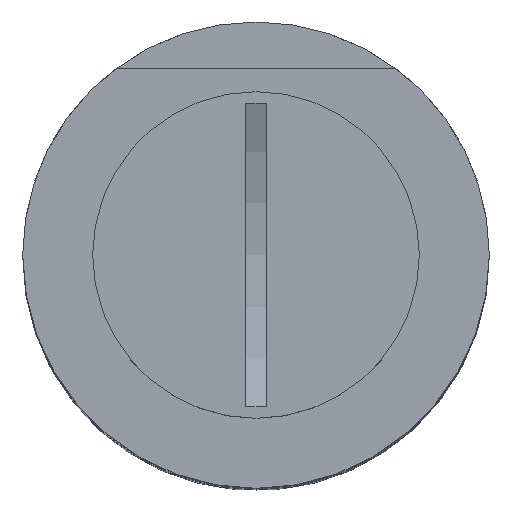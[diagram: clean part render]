
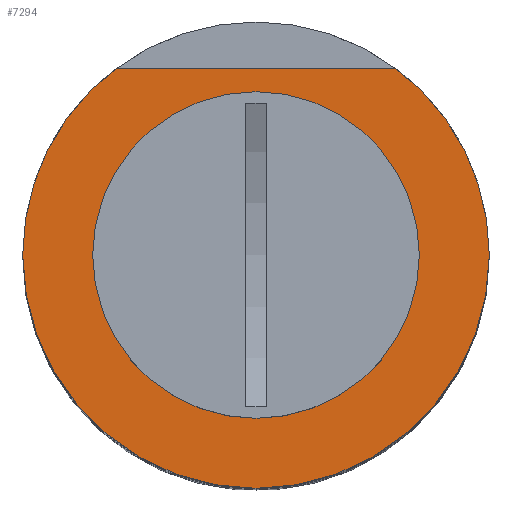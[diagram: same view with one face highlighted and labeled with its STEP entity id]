
A CAD part, top view. The second image highlights one B-rep face of the part: STEP entity #7294.
In plain terms, the highlighted planar face has unit normal (0, 0, 1).
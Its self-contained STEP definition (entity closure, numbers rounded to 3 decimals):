
#316 = ORIENTED_EDGE ( 'NONE', *, *, #4922, .F. ) ;
#317 = CARTESIAN_POINT ( 'NONE',  ( 0., 0., 0. ) ) ;
#389 = CARTESIAN_POINT ( 'NONE',  ( 20., 0., 0. ) ) ;
#494 = DIRECTION ( 'NONE',  ( 0., 0., 1. ) ) ;
#1145 = VERTEX_POINT ( 'NONE', #4518 ) ;
#1225 = VERTEX_POINT ( 'NONE', #2186 ) ;
#1281 = CARTESIAN_POINT ( 'NONE',  ( 12.25, 0., 0. ) ) ;
#1479 = DIRECTION ( 'NONE',  ( 1., 0., 0. ) ) ;
#1653 = AXIS2_PLACEMENT_3D ( 'NONE', #7015, #3563, #3510 ) ;
#2097 = CARTESIAN_POINT ( 'NONE',  ( 0., 0., 0. ) ) ;
#2186 = CARTESIAN_POINT ( 'NONE',  ( -12.25, 0., 0. ) ) ;
#2205 = FACE_OUTER_BOUND ( 'NONE', #3460, .T. ) ;
#2321 = CIRCLE ( 'NONE', #6844, 12.25 ) ;
#2330 = CIRCLE ( 'NONE', #7031, 20. ) ;
#2338 = DIRECTION ( 'NONE',  ( 1., 0., 0. ) ) ;
#2452 = ORIENTED_EDGE ( 'NONE', *, *, #10071, .F. ) ;
#2910 = ORIENTED_EDGE ( 'NONE', *, *, #7964, .F. ) ;
#3095 = EDGE_CURVE ( 'NONE', #7414, #1145, #6753, .T. ) ;
#3108 = VERTEX_POINT ( 'NONE', #3982 ) ;
#3115 = DIRECTION ( 'NONE',  ( 1., 0., 0. ) ) ;
#3210 = CIRCLE ( 'NONE', #6825, 20. ) ;
#3460 = EDGE_LOOP ( 'NONE', ( #11089, #316, #3848, #9169 ) ) ;
#3510 = DIRECTION ( 'NONE',  ( -1., 0., 0. ) ) ;
#3563 = DIRECTION ( 'NONE',  ( 0., 0., -1. ) ) ;
#3675 = DIRECTION ( 'NONE',  ( -1., 0., 0. ) ) ;
#3848 = ORIENTED_EDGE ( 'NONE', *, *, #5770, .F. ) ;
#3880 = DIRECTION ( 'NONE',  ( 0., 0., 1. ) ) ;
#3966 = DIRECTION ( 'NONE',  ( 0., 0., 1. ) ) ;
#3982 = CARTESIAN_POINT ( 'NONE',  ( -20., 0., 0. ) ) ;
#4518 = CARTESIAN_POINT ( 'NONE',  ( 12., 16., 0. ) ) ;
#4668 = DIRECTION ( 'NONE',  ( -1., 0., 0. ) ) ;
#4839 = CARTESIAN_POINT ( 'NONE',  ( 0., 0., 0. ) ) ;
#4922 = EDGE_CURVE ( 'NONE', #3108, #7414, #3210, .T. ) ;
#5025 = VERTEX_POINT ( 'NONE', #1281 ) ;
#5398 = CIRCLE ( 'NONE', #5962, 12.25 ) ;
#5617 = CIRCLE ( 'NONE', #1653, 20. ) ;
#5770 = EDGE_CURVE ( 'NONE', #5992, #3108, #5617, .T. ) ;
#5882 = CARTESIAN_POINT ( 'NONE',  ( -12., 16., 0. ) ) ;
#5962 = AXIS2_PLACEMENT_3D ( 'NONE', #8191, #3880, #9922 ) ;
#5992 = VERTEX_POINT ( 'NONE', #389 ) ;
#6613 = FACE_BOUND ( 'NONE', #9296, .T. ) ;
#6753 = LINE ( 'NONE', #10143, #9219 ) ;
#6825 = AXIS2_PLACEMENT_3D ( 'NONE', #4839, #10026, #4668 ) ;
#6844 = AXIS2_PLACEMENT_3D ( 'NONE', #2097, #3966, #3115 ) ;
#7015 = CARTESIAN_POINT ( 'NONE',  ( 0., 0., 0. ) ) ;
#7031 = AXIS2_PLACEMENT_3D ( 'NONE', #317, #7179, #3675 ) ;
#7179 = DIRECTION ( 'NONE',  ( 0., 0., -1. ) ) ;
#7294 = ADVANCED_FACE ( 'NONE', ( #6613, #2205 ), #10118, .T. ) ;
#7414 = VERTEX_POINT ( 'NONE', #5882 ) ;
#7964 = EDGE_CURVE ( 'NONE', #1225, #5025, #2321, .T. ) ;
#8191 = CARTESIAN_POINT ( 'NONE',  ( 0., 0., 0. ) ) ;
#8287 = EDGE_CURVE ( 'NONE', #1145, #5992, #2330, .T. ) ;
#9169 = ORIENTED_EDGE ( 'NONE', *, *, #8287, .F. ) ;
#9219 = VECTOR ( 'NONE', #2338, 1000. ) ;
#9296 = EDGE_LOOP ( 'NONE', ( #2452, #2910 ) ) ;
#9922 = DIRECTION ( 'NONE',  ( 1., 0., 0. ) ) ;
#10026 = DIRECTION ( 'NONE',  ( 0., 0., -1. ) ) ;
#10071 = EDGE_CURVE ( 'NONE', #5025, #1225, #5398, .T. ) ;
#10118 = PLANE ( 'NONE',  #10850 ) ;
#10143 = CARTESIAN_POINT ( 'NONE',  ( -20., 16., 0. ) ) ;
#10803 = CARTESIAN_POINT ( 'NONE',  ( 0., 0., 0. ) ) ;
#10850 = AXIS2_PLACEMENT_3D ( 'NONE', #10803, #494, #1479 ) ;
#11089 = ORIENTED_EDGE ( 'NONE', *, *, #3095, .F. ) ;
